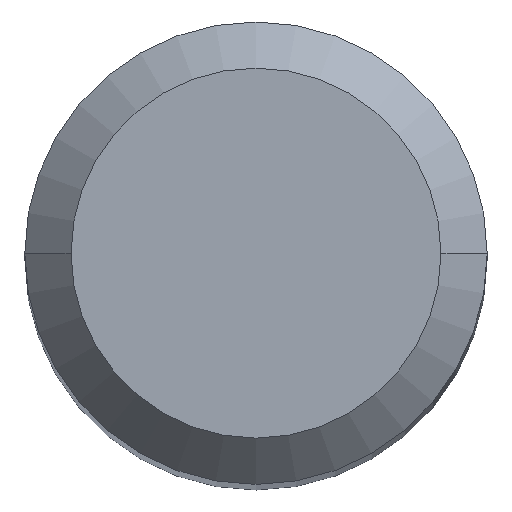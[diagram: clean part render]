
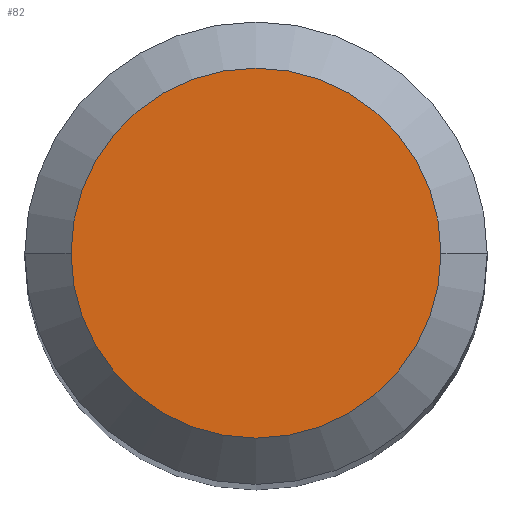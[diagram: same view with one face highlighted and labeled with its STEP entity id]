
A CAD part, top view. The second image highlights one B-rep face of the part: STEP entity #82.
In plain terms, the highlighted planar face has unit normal (0, 0, 1).
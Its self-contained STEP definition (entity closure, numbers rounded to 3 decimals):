
#27 = VERTEX_POINT ( 'NONE', #155 ) ;
#32 = FACE_OUTER_BOUND ( 'NONE', #394, .T. ) ;
#50 = ORIENTED_EDGE ( 'NONE', *, *, #201, .F. ) ;
#66 = DIRECTION ( 'NONE',  ( 0., 0., -1. ) ) ;
#82 = ADVANCED_FACE ( 'NONE', ( #32 ), #186, .T. ) ;
#108 = DIRECTION ( 'NONE',  ( 0., 0., -1. ) ) ;
#121 = ORIENTED_EDGE ( 'NONE', *, *, #417, .F. ) ;
#133 = CIRCLE ( 'NONE', #390, 3.2 ) ;
#146 = AXIS2_PLACEMENT_3D ( 'NONE', #241, #108, #375 ) ;
#155 = CARTESIAN_POINT ( 'NONE',  ( 3.2, 0., 0. ) ) ;
#186 = PLANE ( 'NONE',  #364 ) ;
#201 = EDGE_CURVE ( 'NONE', #27, #350, #133, .T. ) ;
#202 = CARTESIAN_POINT ( 'NONE',  ( -3.2, 0., 0. ) ) ;
#203 = CARTESIAN_POINT ( 'NONE',  ( 0., 0., 0. ) ) ;
#235 = DIRECTION ( 'NONE',  ( -1., 0., 0. ) ) ;
#241 = CARTESIAN_POINT ( 'NONE',  ( 0., 0., 0. ) ) ;
#300 = DIRECTION ( 'NONE',  ( 0., 0., 1. ) ) ;
#326 = CARTESIAN_POINT ( 'NONE',  ( 0., 3.2, 0. ) ) ;
#327 = CIRCLE ( 'NONE', #146, 3.2 ) ;
#350 = VERTEX_POINT ( 'NONE', #202 ) ;
#364 = AXIS2_PLACEMENT_3D ( 'NONE', #326, #300, #423 ) ;
#375 = DIRECTION ( 'NONE',  ( -1., 0., 0. ) ) ;
#390 = AXIS2_PLACEMENT_3D ( 'NONE', #203, #66, #235 ) ;
#394 = EDGE_LOOP ( 'NONE', ( #121, #50 ) ) ;
#417 = EDGE_CURVE ( 'NONE', #350, #27, #327, .T. ) ;
#423 = DIRECTION ( 'NONE',  ( 1., 0., 0. ) ) ;
